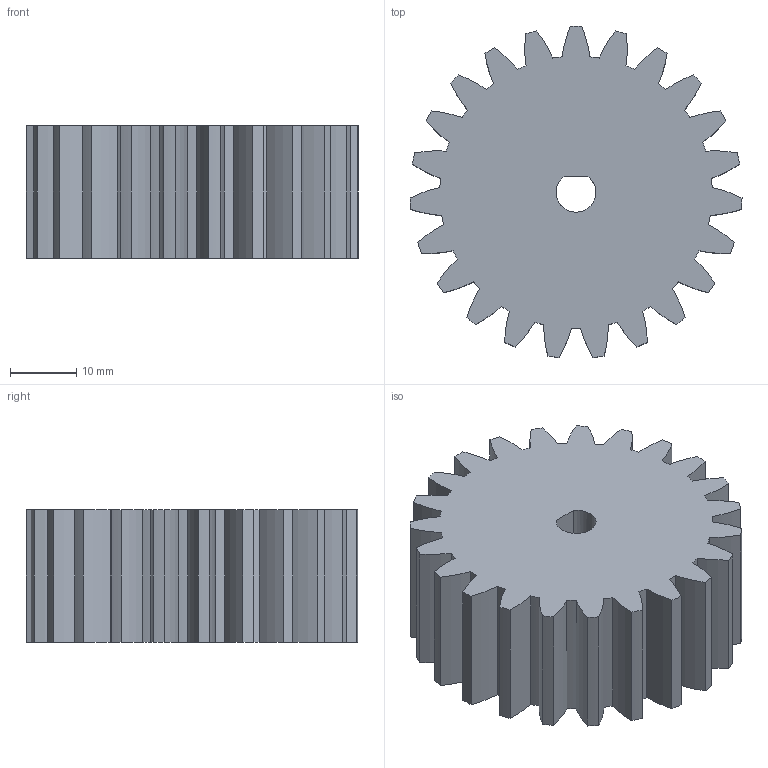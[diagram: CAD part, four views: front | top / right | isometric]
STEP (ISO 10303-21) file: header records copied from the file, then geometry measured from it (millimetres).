
FILE_DESCRIPTION(('STEP AP242'), '1');
FILE_NAME('Øåñòåð¸íêà ìàëåíüêàÿ', '', ('UNSPECIFIED'), ('UNSPECIFIED'), 'C3D Converter', 'C3D Toolkit', '');
FILE_SCHEMA(('AP242_MANAGED_MODEL_BASED_3D_ENGINEERING_MIM_LF { 1 0 10303 442 1 1 4 }'));
Length unit declared in the file: millimetre
Bounding box: 49.97 x 49.87 x 20 mm (x, y, z)
Volume: 32433.7 mm3; surface area: 9436.4 mm2
Topology: 1 solids, 1 shells, 97 faces, 284 edges, 189 vertices
Faces by surface type: cylinder 93, plane 4
Full cylindrical faces by diameter (mm): 6 x1
Entity records: 3376 total; most frequent: DIRECTION 666, CARTESIAN_POINT 570, ORIENTED_EDGE 566, AXIS2_PLACEMENT_3D 285, EDGE_CURVE 283, VERTEX_POINT 189, CIRCLE 187, EDGE_LOOP 100
